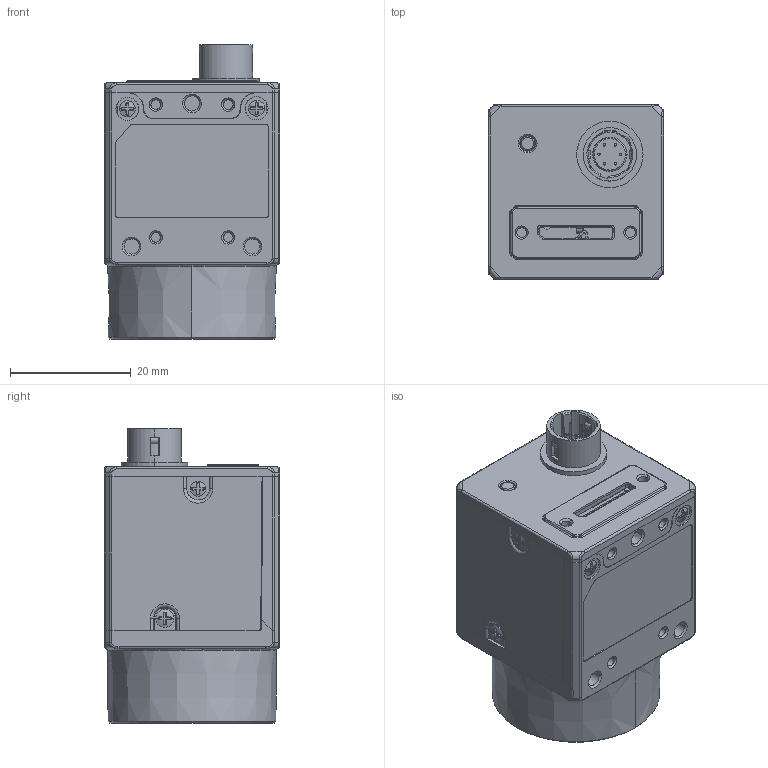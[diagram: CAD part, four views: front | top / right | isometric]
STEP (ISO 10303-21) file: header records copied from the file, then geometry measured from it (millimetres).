
FILE_DESCRIPTION((''),'2;1');
FILE_NAME('29_29_30_USB000_ASM','2021-02-07T20:15:22',('sunli10'),(''),'CREO PARAMETRIC BY PTC INC, 2017260','CREO PARAMETRIC BY PTC INC, 2017260','');
FILE_SCHEMA(('CONFIG_CONTROL_DESIGN'));
Products named in the file (2): MSBR-1; 29_29_30_USB000_ASM
Assembly tree (1 placements, depth 2):
  29_29_30_USB000_ASM
    MSBR-1
Bounding box: 29.03 x 29 x 48.75 mm (x, y, z)
Volume: 26411 mm3; surface area: 9140.3 mm2
Topology: 1 solids, 8 shells, 1545 faces, 4310 edges, 2777 vertices
Faces by surface type: plane 632, cylinder 375, cone 228, bspline 144, torus 134, extrusion 16, sphere 16
Entity records: 61369 total; most frequent: CARTESIAN_POINT 22173, ORIENTED_EDGE 8580, DIRECTION 7965, EDGE_CURVE 4290, AXIS2_PLACEMENT_3D 2952, VERTEX_POINT 2777, VECTOR 2061, LINE 2045
